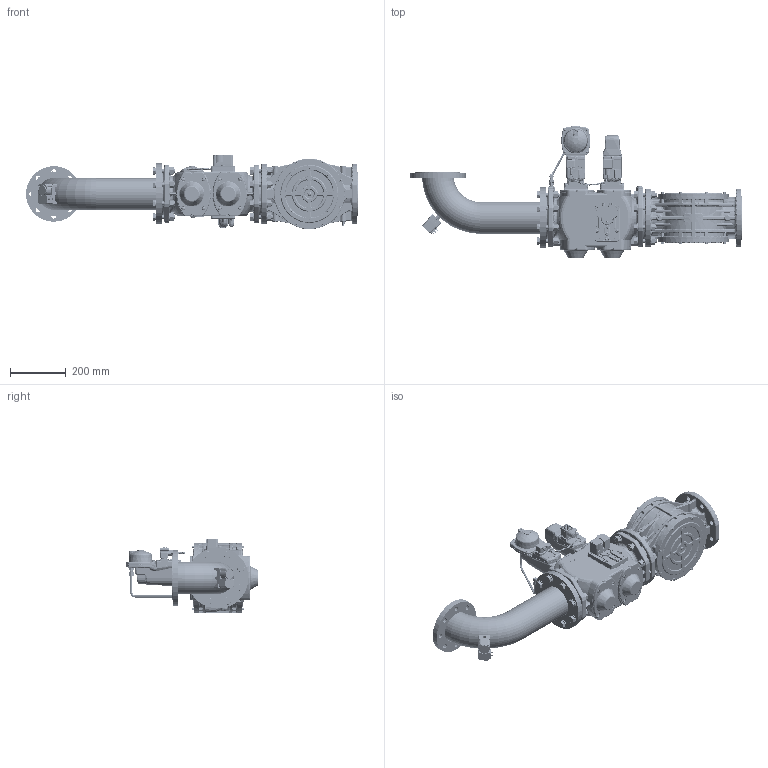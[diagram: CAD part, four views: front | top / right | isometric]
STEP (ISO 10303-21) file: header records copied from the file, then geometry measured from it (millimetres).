
FILE_DESCRIPTION (( 'STEP AP214' ), '1' );
FILE_NAME ('19990544.STEP', '2025-02-20T11:25:46', ( '' ), ( '' ), 'SwSTEP 2.0', 'SolidWorks 2021', '' );
FILE_SCHEMA (( 'AUTOMOTIVE_DESIGN' ));
Length unit declared in the file: millimetre
Products named in the file (1): 19990544
Bounding box: 1195.5 x 475.6 x 268 mm (x, y, z)
Volume: 19051385.2 mm3; surface area: 2312150.8 mm2
Topology: 130 solids, 171 shells, 9513 faces, 22726 edges, 13821 vertices
Faces by surface type: plane 2907, cylinder 2789, bspline 2212, cone 970, torus 503, sphere 132
Full cylindrical faces by diameter (mm): 1.5 x2, 2 x2, 3 x1, 3.1 x1, 3.4 x1, 3.68 x1, 3.838 x3, 4 x5, 4.2 x17, 4.3 x15, 4.35 x4, 4.351 x4, 4.5 x1, 4.8 x1, 5 x43, 5.5 x20, 5.6 x4, 5.795 x8, 5.9 x1, 6 x12, 6.2 x1, 6.4 x4, 6.5 x19, 6.985 x16, 7 x4, 7.794 x16, 8 x19, 8.3 x16, 8.5 x5, 8.55 x1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
Entity records: 491758 total; most frequent: CARTESIAN_POINT 193437, ORIENTED_EDGE 41166, DIRECTION 35629, EDGE_CURVE 20583, AXIS2_PLACEMENT_3D 14148, VERTEX_POINT 13180, EDGE_LOOP 11643, FACE_OUTER_BOUND 10428
